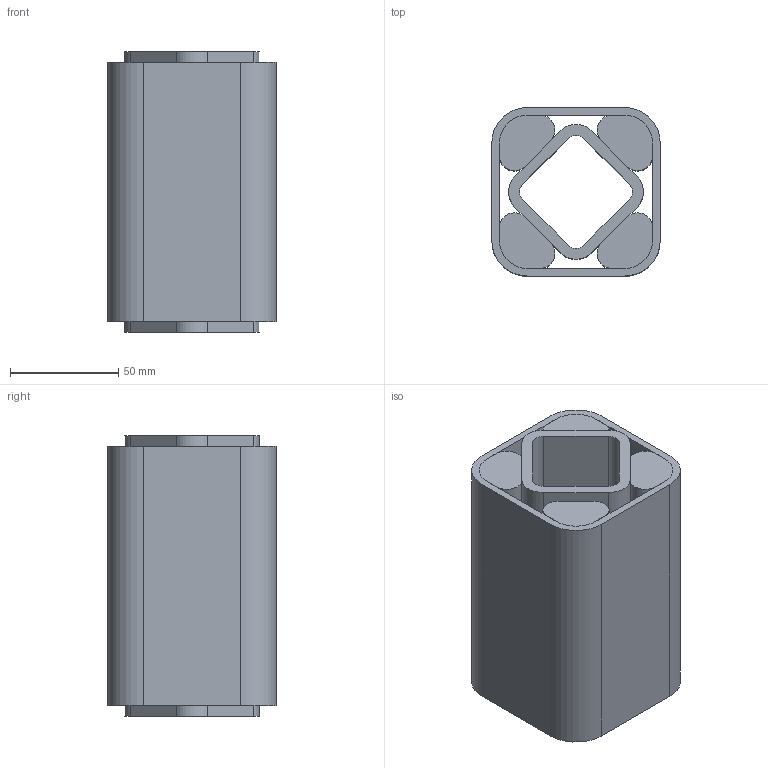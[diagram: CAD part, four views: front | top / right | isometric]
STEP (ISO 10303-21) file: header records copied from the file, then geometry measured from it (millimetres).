
FILE_DESCRIPTION((''),'2;1');
FILE_NAME('D:\ROSTA\Gummifederelemente\3D\DR-S50x120_01021019.stp','2005-02-02T16:32:05',('Administrator'),(''),'Autodesk Inventor 8','Autodesk Inventor 8','');
FILE_SCHEMA(('AUTOMOTIVE_DESIGN { 1 0 10303 214 1 1 1 1 }'));
Length unit declared in the file: millimetre
Products named in the file (4): Baugruppe2; 4.4.3731-001; 4.4.3731-002; 4.4.3731-003
Assembly tree (6 placements, depth 2):
  Baugruppe2
    4.4.3731-001
    4.4.3731-002
    4.4.3731-003  x4
Bounding box: 78 x 78 x 130 mm (x, y, z)
Volume: 452529.5 mm3; surface area: 155421.2 mm2
Topology: 6 solids, 6 shells, 68 faces, 168 edges, 112 vertices
Faces by surface type: plane 40, cylinder 28
Entity records: 1491 total; most frequent: DIRECTION 260, CARTESIAN_POINT 244, ORIENTED_EDGE 228, EDGE_CURVE 114, AXIS2_PLACEMENT_3D 92, VERTEX_POINT 76, VECTOR 76, LINE 76
